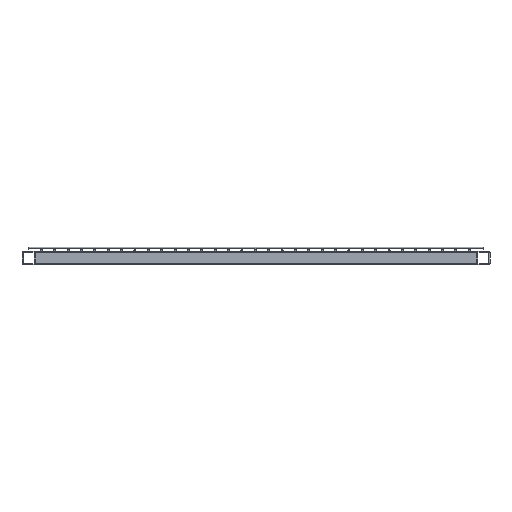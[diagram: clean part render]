
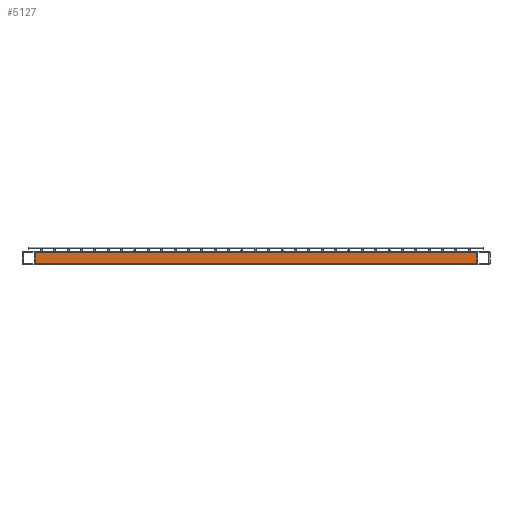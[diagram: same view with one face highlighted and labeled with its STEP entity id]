
A CAD part, front view. The second image highlights one B-rep face of the part: STEP entity #5127.
In plain terms, the highlighted planar face has unit normal (0, -1, 0).
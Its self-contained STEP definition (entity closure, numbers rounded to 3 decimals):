
#38 = LINE ( 'NONE', #2952, #1433 ) ;
#131 = VERTEX_POINT ( 'NONE', #3552 ) ;
#216 = CARTESIAN_POINT ( 'NONE',  ( 330., -844., -8. ) ) ;
#242 = ORIENTED_EDGE ( 'NONE', *, *, #3472, .F. ) ;
#366 = ORIENTED_EDGE ( 'NONE', *, *, #613, .T. ) ;
#427 = DIRECTION ( 'NONE',  ( 0., 0., 1. ) ) ;
#613 = EDGE_CURVE ( 'NONE', #5763, #131, #3135, .T. ) ;
#771 = EDGE_CURVE ( 'NONE', #7216, #131, #1081, .T. ) ;
#1045 = FACE_OUTER_BOUND ( 'NONE', #1192, .T. ) ;
#1056 = VERTEX_POINT ( 'NONE', #216 ) ;
#1081 = LINE ( 'NONE', #5790, #1266 ) ;
#1192 = EDGE_LOOP ( 'NONE', ( #6811, #242, #5163, #366 ) ) ;
#1266 = VECTOR ( 'NONE', #1548, 1000. ) ;
#1433 = VECTOR ( 'NONE', #5405, 1000. ) ;
#1548 = DIRECTION ( 'NONE',  ( 0., 0., 1. ) ) ;
#1816 = VECTOR ( 'NONE', #5757, 1000. ) ;
#1932 = DIRECTION ( 'NONE',  ( -1., 0., 0. ) ) ;
#2191 = CARTESIAN_POINT ( 'NONE',  ( 350., -844., -8. ) ) ;
#2952 = CARTESIAN_POINT ( 'NONE',  ( 330., -844., -8. ) ) ;
#3041 = CARTESIAN_POINT ( 'NONE',  ( 330., -844., 8. ) ) ;
#3135 = LINE ( 'NONE', #6209, #3950 ) ;
#3239 = EDGE_CURVE ( 'NONE', #5763, #1056, #38, .T. ) ;
#3472 = EDGE_CURVE ( 'NONE', #1056, #7216, #5796, .T. ) ;
#3552 = CARTESIAN_POINT ( 'NONE',  ( -330., -844., 8. ) ) ;
#3776 = AXIS2_PLACEMENT_3D ( 'NONE', #7835, #7871, #427 ) ;
#3950 = VECTOR ( 'NONE', #1932, 1000. ) ;
#4723 = CARTESIAN_POINT ( 'NONE',  ( -330., -844., -8. ) ) ;
#5127 = ADVANCED_FACE ( 'NONE', ( #1045 ), #5391, .F. ) ;
#5163 = ORIENTED_EDGE ( 'NONE', *, *, #3239, .F. ) ;
#5391 = PLANE ( 'NONE',  #3776 ) ;
#5405 = DIRECTION ( 'NONE',  ( 0., 0., -1. ) ) ;
#5757 = DIRECTION ( 'NONE',  ( -1., 0., 0. ) ) ;
#5763 = VERTEX_POINT ( 'NONE', #3041 ) ;
#5790 = CARTESIAN_POINT ( 'NONE',  ( -330., -844., -8. ) ) ;
#5796 = LINE ( 'NONE', #2191, #1816 ) ;
#6209 = CARTESIAN_POINT ( 'NONE',  ( 350., -844., 8. ) ) ;
#6811 = ORIENTED_EDGE ( 'NONE', *, *, #771, .F. ) ;
#7216 = VERTEX_POINT ( 'NONE', #4723 ) ;
#7835 = CARTESIAN_POINT ( 'NONE',  ( 350., -844., -8. ) ) ;
#7871 = DIRECTION ( 'NONE',  ( 0., 1., 0. ) ) ;
